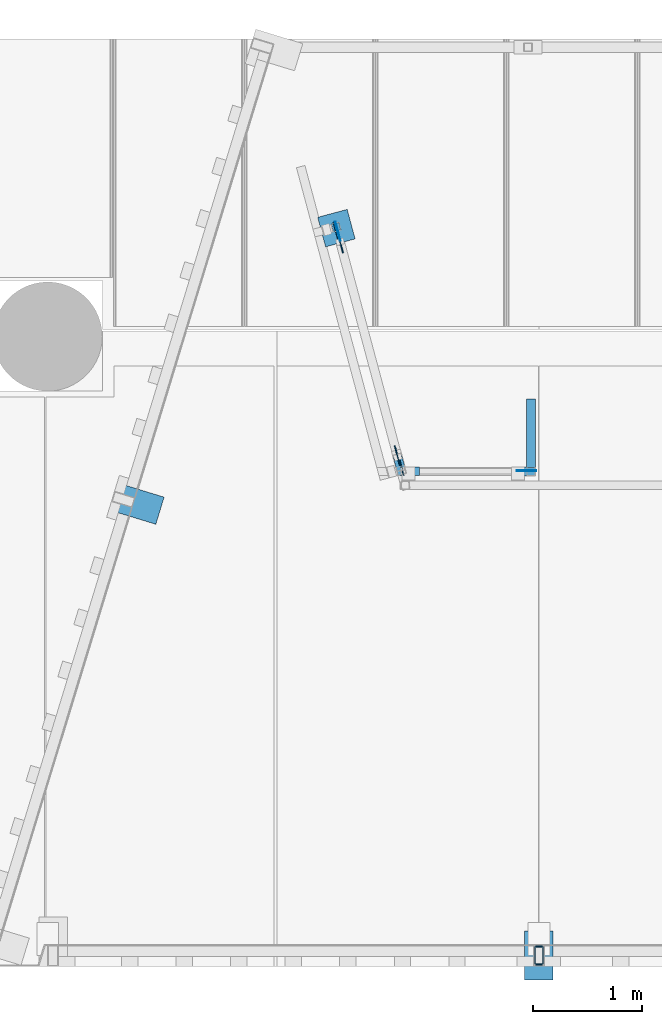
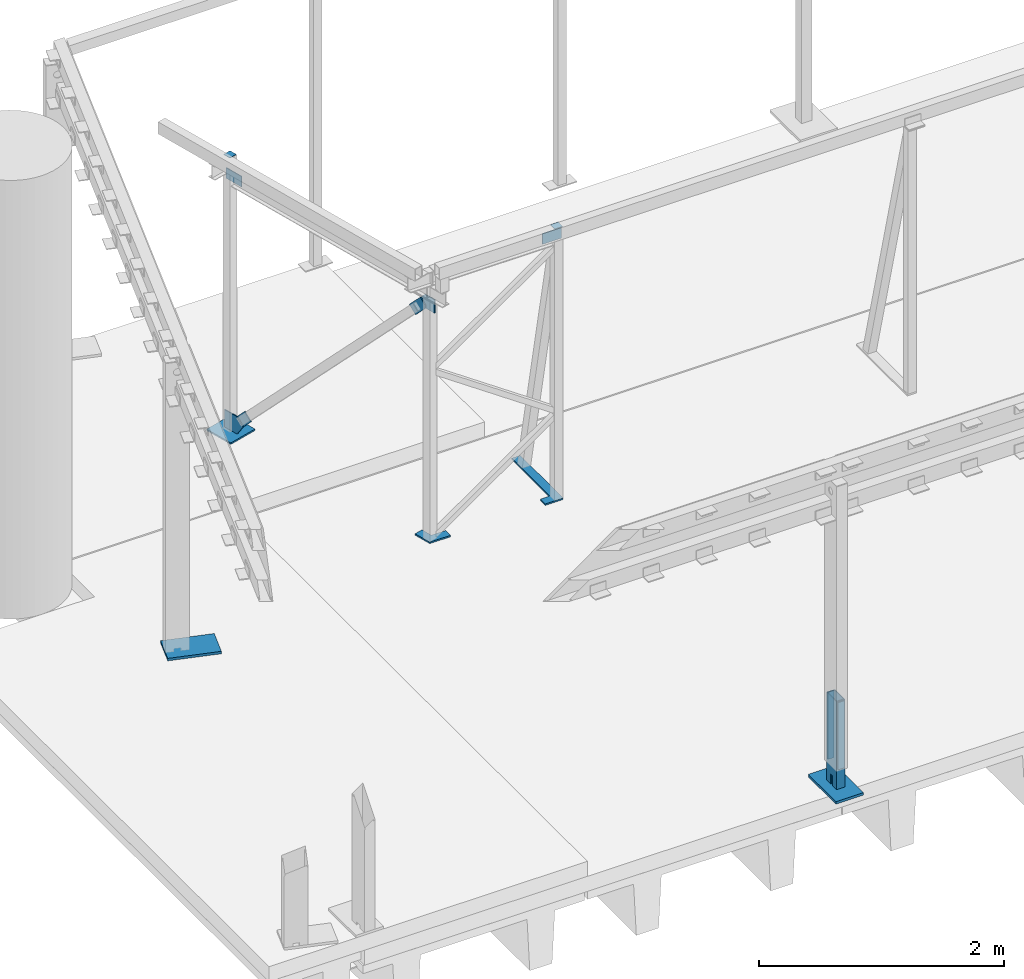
# One storey, part 6 of 19: 16 columns.
"""IFC2X3 building model written with IfcOpenShell, lengths in millimetres."""

from ifc_helpers import new_model, entity, si_unit, converted_unit, derived_unit, direction, frame, origin_with_axes, place, context, subcontext, project, spatial, faceted_brep, material, type_object, element, save


model = new_model("IFC2X3")

# Units and contexts
model_context = context("Model", 3, precision=0.01, world=frame((0.0, 4.29681676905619e-09, 0.0)), true_north=direction((4.01073788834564e-13, 1.0)))
plan_context = context("Plan", 3, precision=0.01, world=frame((0.0, 4.29681676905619e-09, 0.0)), true_north=direction((4.01073788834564e-13, 1.0)))
body_context = subcontext(model_context, "Body", "Model", "MODEL_VIEW")
ifc_project = project(units=[converted_unit("PLANEANGLEUNIT", "DEGREE", entity("IfcPositiveLengthMeasure", 0.0174532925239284), si_unit("PLANEANGLEUNIT", "RADIAN"), dimensions=[0, 0, 0, 0, 0, 0, 0]), si_unit("AREAUNIT", "SQUARE_METRE"), si_unit("LENGTHUNIT", "METRE", prefix="MILLI"), si_unit("MASSUNIT", "GRAM", prefix="KILO"), si_unit("POWERUNIT", "WATT"), si_unit("PRESSUREUNIT", "PASCAL", prefix="KILO"), si_unit("FORCEUNIT", "NEWTON", prefix="KILO"), si_unit("ELECTRICVOLTAGEUNIT", "VOLT"), si_unit("ELECTRICCURRENTUNIT", "AMPERE"), si_unit("THERMODYNAMICTEMPERATUREUNIT", "DEGREE_CELSIUS"), si_unit("TIMEUNIT", "SECOND"), si_unit("VOLUMEUNIT", "CUBIC_METRE"), derived_unit("LINEARVELOCITYUNIT", [(si_unit("LENGTHUNIT", "METRE"), 1), (si_unit("TIMEUNIT", "SECOND"), -1)]), derived_unit("VOLUMETRICFLOWRATEUNIT", [(si_unit("VOLUMEUNIT", "CUBIC_METRE"), 1), (si_unit("TIMEUNIT", "SECOND"), -1)]), derived_unit("THERMALTRANSMITTANCEUNIT", [(si_unit("POWERUNIT", "WATT"), 1), (si_unit("THERMODYNAMICTEMPERATUREUNIT", "KELVIN"), -1), (si_unit("AREAUNIT", "SQUARE_METRE"), -1)]), derived_unit("SOUNDPRESSUREUNIT", [(si_unit("PRESSUREUNIT", "PASCAL"), 1)])], contexts=[model_context, plan_context])

# Site, building, storey
site_placement = place(None, frame((0.0, -4.29681676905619e-09, 0.0), z_axis=(0.0, 0.0, 1.0), x_axis=(1.0, 0.0, 0.0)))
site = spatial("IfcSite", under=ifc_project, at=site_placement, Name="Gardermoen", CompositionType="ELEMENT")
building_placement = place(site_placement, frame((0.0, 4.29681676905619e-09, 0.0), z_axis=(0.0, 0.0, 1.0), x_axis=(1.0, 0.0, 0.0)))
building = spatial("IfcBuilding", under=site, at=building_placement, Name="TI", CompositionType="ELEMENT")
storey_placement = place(building_placement, origin_with_axes())
storey = spatial("IfcBuildingStorey", under=building, at=storey_placement, Name="F", CompositionType="ELEMENT", Elevation=0.0)

# Columns
ifc_material_1 = material(Name="STEEL/S355")
column_type_1 = type_object("IfcColumnType", Name="PL10*100", PredefinedType="NOTDEFINED")
column_1_placement = place(storey_placement, frame((586221.379884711, 574341.523063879, 213212.143935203), z_axis=(0.188021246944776, -0.701719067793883, -0.687196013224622), x_axis=(-0.177856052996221, 0.663781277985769, -0.726472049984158)))
element("IfcColumn", 1, at=column_1_placement, inside=storey, type_object=column_type_1, material=ifc_material_1, Name="STÅLSØYLE", ObjectType="PL10*100", context=body_context, shape_type="Brep", body=[
    faceted_brep([(0.0, -4.99999999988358, -50.0000000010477), (8.73114913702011e-11, 5.00000000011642, -50.0000000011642), (184.999991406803, 4.99999999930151, -49.9999999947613), (184.999991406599, -5.00000000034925, -49.9999999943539), (184.999991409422, -5.00000000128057, 50.000000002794), (184.999991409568, 4.99999999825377, 50.0000000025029), (23.9884502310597, -5.00000000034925, 49.9999999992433), (7.8580342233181e-10, -4.99999999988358, 27.3084630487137), (9.60426405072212e-10, 4.99999999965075, 27.3082961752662), (23.9886266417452, 4.99999999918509, 49.9999999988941)], [[[0, 1, 2, 3]], [[4, 3, 2, 5]], [[0, 3, 4, 6, 7]], [[1, 0, 7, 8]], [[5, 2, 1, 8, 9]], [[4, 5, 9, 6]], [[8, 7, 6, 9]]]),
])
column_2_placement = place(storey_placement, frame((585663.437057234, 576423.838022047, 210933.086428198), z_axis=(-0.188021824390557, 0.701719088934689, 0.687195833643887), x_axis=(0.177856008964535, -0.663781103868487, 0.726472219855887)))
element("IfcColumn", 2, at=column_2_placement, inside=storey, type_object=column_type_1, material=ifc_material_1, Name="STÅLSØYLE", ObjectType="PL10*100", context=body_context, shape_type="Brep", body=[
    faceted_brep([(8.73114913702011e-11, 5.00000000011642, -50.0000000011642), (2.91038304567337e-11, 5.00000000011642, 50.0000000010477), (184.999991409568, 4.99999999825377, 50.0000000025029), (184.999991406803, 4.99999999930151, -49.9999999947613), (-8.73114913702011e-11, -4.99999999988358, 50.0000000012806), (184.999991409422, -5.00000000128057, 50.000000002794), (0.0, -4.99999999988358, -50.0000000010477), (184.999991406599, -5.00000000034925, -49.9999999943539)], [[[0, 1, 2, 3]], [[1, 4, 5, 2]], [[4, 6, 7, 5]], [[6, 0, 3, 7]], [[5, 7, 3, 2]], [[6, 4, 1, 0]]]),
])
column_type_2 = type_object("IfcColumnType", Name="PL25*260", PredefinedType="NOTDEFINED")
for number, where, z_axis, x_axis in (
    (3, (583598.205446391, 574035.928125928, 210842.5), (-0.292371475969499, -0.956304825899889, 0.0), (0.956304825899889, -0.292371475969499, 0.0)),
    (4, (587500.000043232, 569605.0, 210692.5), (-1.0, 0.0, 0.0), (0.0, 1.0, 0.0)),
):
    element("IfcColumn", number, at=place(storey_placement, frame(where, z_axis=z_axis, x_axis=x_axis)), inside=storey, type_object=column_type_2, material=ifc_material_1, Name="STÅLSØYLE", ObjectType="PL25*260", context=body_context, shape_type="Brep", body=[
        faceted_brep([(-5.82076609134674e-10, 12.5, -130.0), (-5.82076609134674e-10, 12.5, 130.0), (449.999999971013, 12.5, 129.999999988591), (449.999999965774, 12.5, -130.000000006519), (3.49245965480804e-10, -12.4999999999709, 130.0), (449.999999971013, -12.5, 129.999999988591), (3.49245965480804e-10, -12.4999999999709, -130.0), (449.999999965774, -12.5, -130.000000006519)], [[[0, 1, 2, 3]], [[1, 4, 5, 2]], [[4, 6, 7, 5]], [[6, 0, 3, 7]], [[5, 7, 3, 2]], [[6, 4, 1, 0]]]),
    ])
column_type_3 = type_object("IfcColumnType", Name="PL15*280", PredefinedType="NOTDEFINED")
column_3_placement = place(storey_placement, frame((585816.275615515, 576394.311729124, 210837.5), z_axis=(-0.965925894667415, -0.258818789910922, 0.0), x_axis=(-0.258818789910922, 0.965925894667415, 0.0)))
element("IfcColumn", 5, at=column_3_placement, inside=storey, type_object=column_type_3, material=ifc_material_1, Name="STÅLSØYLE", ObjectType="PL15*280", context=body_context, shape_type="Brep", body=[
    faceted_brep([(0.0, -7.5, 0.0), (-0.000628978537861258, -7.5, 279.998931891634), (-0.000628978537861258, 7.5, 279.998931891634), (0.0, 7.5, 0.0), (279.999359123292, -7.5, 279.99893190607), (279.999359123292, 7.5, 279.99893190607), (280.000000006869, -7.5, 2.54949554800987e-08), (280.000000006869, 7.5, 2.54949554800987e-08)], [[[0, 1, 2, 3]], [[1, 4, 5, 2]], [[4, 6, 7, 5]], [[6, 0, 3, 7]], [[5, 7, 3, 2]], [[6, 4, 1, 0]]]),
])
ifc_material_2 = material(Name="STEEL/S355J0")
column_type_4 = type_object("IfcColumnType", Name="PL8*105", PredefinedType="NOTDEFINED")
for number, where, z_axis, x_axis in (
    (6, (587377.90992785, 574271.607567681, 213560.499846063), (0.0, 0.0, -1.0), (0.999999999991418, -4.14300011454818e-06, 0.0)),
    (7, (585660.527461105, 576455.376962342, 213420.499732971), (2.58819226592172e-10, -9.65933660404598e-10, -1.0), (-0.258817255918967, 0.965926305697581, -1.00000761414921e-09)),
):
    element("IfcColumn", number, at=place(storey_placement, frame(where, z_axis=z_axis, x_axis=x_axis)), inside=storey, type_object=column_type_4, material=ifc_material_2, Name="STÅLSØYLE", ObjectType="PL8*105", context=body_context, shape_type="Brep", body=[
        faceted_brep([(-5.82076609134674e-11, -3.99999999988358, 0.0), (-80.0001602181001, -3.99999999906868, 0.0), (-80.0001602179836, 4.00000000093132, 0.0), (-5.82076609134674e-11, 4.00000000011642, -5.82076609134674e-11), (-80.0001602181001, -3.99999999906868, 105.0), (-80.0001602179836, 4.00000000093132, 105.0), (100.000000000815, -4.00000000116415, 105.0), (100.000000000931, 3.99999999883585, 105.0), (100.0, -4.0, 0.0), (100.0, 4.0, 0.0)], [[[0, 1, 2, 3]], [[1, 4, 5, 2]], [[4, 6, 7, 5]], [[6, 8, 9, 7]], [[8, 0, 3, 9]], [[5, 7, 9, 3, 2]], [[8, 6, 4, 1, 0]]]),
    ])
column_type_5 = type_object("IfcColumnType", Name="PL5*72", PredefinedType="NOTDEFINED")
for number, where, z_axis, x_axis in (
    (8, (587427.909907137, 574228.259051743, 213597.5), (1.0, 0.0, 0.0), (0.0, 1.0, 0.0)),
    (9, (585651.738617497, 576467.515897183, 213575.5), (0.965923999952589, 0.258825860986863, 0.0), (-0.258825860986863, 0.965923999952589, 0.0)),
):
    element("IfcColumn", number, at=place(storey_placement, frame(where, z_axis=z_axis, x_axis=x_axis)), inside=storey, type_object=column_type_5, material=ifc_material_2, Name="STÅLSØYLE", ObjectType="PL5*72", context=body_context, shape_type="Brep", body=[
        faceted_brep([(0.0, 2.5, -36.0), (0.0, 2.5, 36.0), (72.0, 2.5, 36.0), (72.0, 2.5, -36.0), (0.0, -2.5, 36.0), (72.0, -2.5, 36.0), (0.0, -2.5, -36.0), (72.0, -2.5, -36.0)], [[[0, 1, 2, 3]], [[1, 4, 5, 2]], [[4, 6, 7, 5]], [[6, 0, 3, 7]], [[5, 7, 3, 2]], [[6, 4, 1, 0]]]),
    ])
column_type_6 = type_object("IfcColumnType", Name="PL15*170", PredefinedType="NOTDEFINED")
column_4_placement = place(storey_placement, frame((587297.906696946, 574224.255112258, 210887.5), z_axis=(0.0, 1.0, 0.0), x_axis=(1.0, 0.0, 0.0)))
element("IfcColumn", 10, at=column_4_placement, inside=storey, type_object=column_type_6, material=ifc_material_1, Name="STÅLSØYLE", ObjectType="PL15*170", context=body_context, shape_type="Brep", body=[
    faceted_brep([(0.0, -7.5, 0.0), (-0.000629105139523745, -7.5, 79.9989318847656), (-0.000629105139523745, 7.5, 79.9989318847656), (0.0, 7.5, 0.0), (89.9993896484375, -7.5, 79.9289398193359), (89.9993896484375, 7.5, 79.9289398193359), (90.0023727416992, -7.5, 702.50390625), (90.0023727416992, 7.5, 702.50390625), (170.002365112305, -7.5, 702.503967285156), (170.002365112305, 7.5, 702.503967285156), (170.0, -7.5, 2.56113708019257e-09), (170.0, 7.5, 2.56113708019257e-09)], [[[0, 1, 2, 3]], [[1, 4, 5, 2]], [[4, 6, 7, 5]], [[6, 8, 9, 7]], [[8, 10, 11, 9]], [[10, 0, 3, 11]], [[5, 7, 9, 11, 3, 2]], [[10, 8, 6, 4, 1, 0]]]),
])
column_type_7 = type_object("IfcColumnType", Name="PL15*185", PredefinedType="NOTDEFINED")
column_5_placement = place(storey_placement, frame((586167.205734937, 574389.118168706, 210887.5), z_axis=(0.965925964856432, 0.258818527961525, 0.0), x_axis=(0.258818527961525, -0.965925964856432, 0.0)))
element("IfcColumn", 11, at=column_5_placement, inside=storey, type_object=column_type_7, material=ifc_material_1, Name="STÅLSØYLE", ObjectType="PL15*185", context=body_context, shape_type="Brep", body=[
    faceted_brep([(0.0, -7.5, 0.0), (-0.001236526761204, -7.5, 79.9989318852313), (-0.001236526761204, 7.5, 79.9989318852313), (0.0, 7.5, 0.0), (108.493568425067, -7.5, 80.0046844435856), (108.493568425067, 7.5, 80.0046844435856), (143.158325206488, -7.5, 209.052688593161), (143.158325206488, 7.5, 209.052688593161), (220.418914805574, -7.5, 188.297027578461), (220.418914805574, 7.5, 188.297027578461), (169.833343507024, -7.5, -2.3283064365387e-09), (169.833343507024, 7.5, -2.3283064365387e-09)], [[[0, 1, 2, 3]], [[1, 4, 5, 2]], [[4, 6, 7, 5]], [[6, 8, 9, 7]], [[8, 10, 11, 9]], [[10, 0, 3, 11]], [[5, 7, 9, 11, 3, 2]], [[10, 8, 6, 4, 1, 0]]]),
])
column_type_8 = type_object("IfcColumnType", Name="PL10*204", PredefinedType="NOTDEFINED")
column_6_placement = place(storey_placement, frame((586232.287203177, 574339.464564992, 213289.993714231), z_axis=(-0.000680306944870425, -0.00021399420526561, -0.999999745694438), x_axis=(0.258118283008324, -0.966113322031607, 3.1142999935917e-05)))
element("IfcColumn", 12, at=column_6_placement, inside=storey, type_object=column_type_8, material=ifc_material_1, Name="STÅLSØYLE", ObjectType="PL10*204", context=body_context, shape_type="Brep", body=[
    faceted_brep([(0.0, -5.0, 0.0), (-88.6291580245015, -5.00000000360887, 93.7187194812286), (-88.629158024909, 4.99999999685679, 93.7187194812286), (0.0, 5.0, 0.0), (-16.5924701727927, -5.00000000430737, 163.069915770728), (-16.5924701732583, 4.99999999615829, 163.069915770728), (11.772717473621, -5.00000000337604, 133.086761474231), (11.7727174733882, 4.99999999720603, 133.086761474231), (115.031745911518, -5.00000000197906, 133.070312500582), (115.031745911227, 4.9999999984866, 133.070312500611), (115.027221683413, -4.99999999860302, 3.49245965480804e-10), (115.027221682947, 5.00000000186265, 3.49245965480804e-10)], [[[0, 1, 2, 3]], [[1, 4, 5, 2]], [[4, 6, 7, 5]], [[6, 8, 9, 7]], [[8, 10, 11, 9]], [[10, 0, 3, 11]], [[5, 7, 9, 11, 3, 2]], [[10, 8, 6, 4, 1, 0]]]),
])
column_type_9 = type_object("IfcColumnType", Name="PL10*216", PredefinedType="NOTDEFINED")
column_7_placement = place(storey_placement, frame((585619.816981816, 576547.995784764, 210844.999410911), z_axis=(0.258815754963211, -0.965926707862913, -4.46523269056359e-06), x_axis=(1.29785916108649e-06, -4.27498924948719e-06, 0.99999999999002)))
element("IfcColumn", 13, at=column_7_placement, inside=storey, type_object=column_type_9, material=ifc_material_1, Name="STÅLSØYLE", ObjectType="PL10*216", context=body_context, shape_type="Brep", body=[
    faceted_brep([(0.0, -5.0, 0.0), (-0.00237443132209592, -5.0000000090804, 146.718460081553), (-0.00237443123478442, 4.99999999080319, 146.718460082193), (0.0, 5.0, 0.0), (104.581245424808, -5.00000001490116, 215.643692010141), (104.581245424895, 4.99999998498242, 215.643692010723), (173.301040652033, -5.00000001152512, 142.997787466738), (173.30104065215, 4.99999998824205, 142.997787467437), (173.29994201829, -5.00000000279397, -5.87897375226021e-09), (173.299942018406, 4.99999999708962, -5.23868948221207e-09)], [[[0, 1, 2, 3]], [[1, 4, 5, 2]], [[4, 6, 7, 5]], [[6, 8, 9, 7]], [[8, 0, 3, 9]], [[5, 7, 9, 3, 2]], [[8, 6, 4, 1, 0]]]),
])
column_type_10 = type_object("IfcColumnType", Name="PL60*10", PredefinedType="NOTDEFINED")
for number, where, z_axis, x_axis in (
    (14, (587499.995350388, 569744.992696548, 210905.000686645), (-0.999999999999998, 5.80000057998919e-08, 0.0), (0.0, 0.0, 1.0)),
    (15, (587499.995350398, 569914.998741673, 210905.000686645), (-0.999999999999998, 5.80000057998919e-08, 0.0), (0.0, 0.0, 1.0)),
):
    element("IfcColumn", number, at=place(storey_placement, frame(where, z_axis=z_axis, x_axis=x_axis)), inside=storey, type_object=column_type_10, material=ifc_material_1, Name="STÅLSØYLE", ObjectType="PL60*10", context=body_context, shape_type="Brep", body=[
        faceted_brep([(2.3283064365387e-10, 5.00000000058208, -29.9999999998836), (-1.74622982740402e-10, 4.99999999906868, 29.9999999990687), (670.0, 5.0, 30.0), (670.0, 5.0, -30.0), (-2.03726813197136e-10, -5.0000000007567, 30.0), (670.0, -5.0, 30.0), (2.3283064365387e-10, -4.99999999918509, -29.9999999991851), (670.0, -5.0, -30.0)], [[[0, 1, 2, 3]], [[1, 4, 5, 2]], [[4, 6, 7, 5]], [[6, 0, 3, 7]], [[5, 7, 3, 2]], [[6, 4, 1, 0]]]),
    ])
column_type_11 = type_object("IfcColumnType", Name="RHS160*80*8", PredefinedType="NOTDEFINED")
column_8_placement = place(storey_placement, frame((587500.000043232, 569830.0, 210680.0), z_axis=(0.0, 1.0, 0.0), x_axis=(0.0, 0.0, 1.0)))
element("IfcColumn", 16, at=column_8_placement, inside=storey, type_object=column_type_11, material=ifc_material_1, Name="STÅLSØYLE", ObjectType="RHS160*80*8", context=body_context, shape_type="Brep", body=[
    faceted_brep([(125.000000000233, -40.0, -13.9999999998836), (125.000000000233, -32.0, -13.9999999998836), (25.0, -32.0, -13.9999999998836), (25.0, -40.0, -13.9999999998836), (125.000000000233, -40.0, 14.0000000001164), (125.000000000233, -32.0, 14.0000000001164), (25.0, -40.0, 14.0000000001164), (25.0, -32.0, 14.0000000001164), (25.0, -32.0, 72.0), (25.0, 32.0, 72.0), (900.000686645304, 32.0, 72.0), (900.000686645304, -32.0, 72.0), (25.0, 40.0, 80.0), (25.0, -40.0, 80.0), (900.000686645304, -40.0, 80.0), (900.000686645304, 40.0, 80.0), (25.0, 32.0, 13.9999999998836), (25.0, 40.0, 13.9999999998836), (125.000000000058, 40.0, 13.9999999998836), (125.000000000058, 32.0, 13.9999999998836), (900.000686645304, 40.0, -80.0), (25.0, 40.0, -80.0), (25.0, 40.0, -14.0000000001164), (125.000000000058, 40.0, -14.0000000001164), (125.000000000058, 32.0, -14.0000000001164), (25.0, 32.0, -14.0000000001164), (25.0, 32.0, -72.0), (900.000686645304, 32.0, -72.0), (25.0, -32.0, -72.0), (900.000686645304, -32.0, -72.0), (900.000686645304, -40.0, -80.0), (25.0, -40.0, -80.0)], [[[0, 1, 2, 3]], [[4, 5, 1, 0]], [[6, 7, 5, 4]], [[8, 9, 10, 11]], [[12, 13, 14, 15]], [[16, 17, 18, 19]], [[12, 15, 20, 21, 22, 23, 18, 17]], [[24, 23, 22, 25]], [[19, 18, 23, 24]], [[25, 26, 27, 10, 9, 16, 19, 24]], [[26, 28, 29, 27]], [[14, 30, 20, 15], [11, 10, 27, 29]], [[31, 21, 20, 30]], [[28, 26, 25, 22, 21, 31, 3, 2]], [[8, 11, 29, 28, 2, 1, 5, 7]], [[13, 12, 17, 16, 9, 8, 7, 6]], [[3, 31, 30, 14, 13, 6, 4, 0]]]),
])

save(model, "model.ifc")
